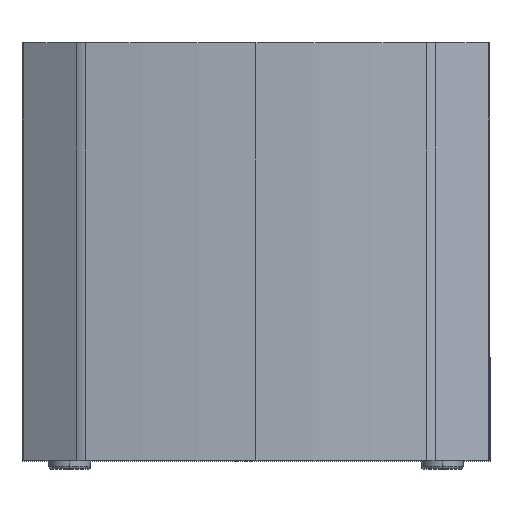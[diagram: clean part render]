
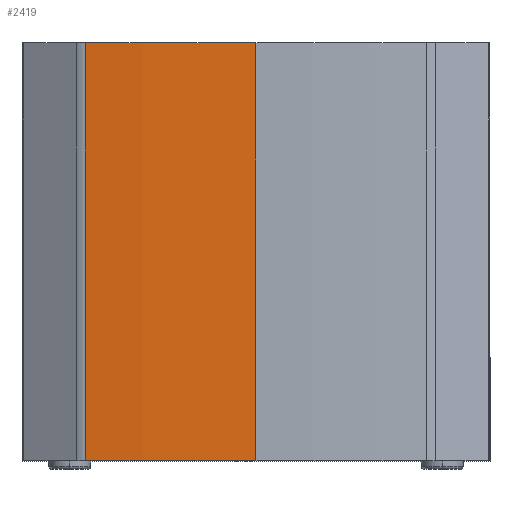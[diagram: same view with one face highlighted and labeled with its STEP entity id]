
A CAD part, top view. The second image highlights one B-rep face of the part: STEP entity #2419.
In plain terms, the highlighted cylindrical face has radius 1291.21 mm (diameter 2582.42 mm), a partial arc.
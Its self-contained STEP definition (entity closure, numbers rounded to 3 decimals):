
#1 = VECTOR ( 'NONE', #2979, 1000. ) ;
#129 = CARTESIAN_POINT ( 'NONE',  ( 0., 381.88, 251.362 ) ) ;
#325 = CIRCLE ( 'NONE', #1382, 1291.21 ) ;
#449 = DIRECTION ( 'NONE',  ( 0., 0., 1. ) ) ;
#502 = ORIENTED_EDGE ( 'NONE', *, *, #4502, .F. ) ;
#555 = CARTESIAN_POINT ( 'NONE',  ( 0., -652.661, 251.362 ) ) ;
#705 = ORIENTED_EDGE ( 'NONE', *, *, #1091, .T. ) ;
#762 = DIRECTION ( 'NONE',  ( 0., -1., 0. ) ) ;
#790 = VERTEX_POINT ( 'NONE', #2822 ) ;
#850 = CARTESIAN_POINT ( 'NONE',  ( -161.959, -15., 241.164 ) ) ;
#865 = VERTEX_POINT ( 'NONE', #1831 ) ;
#1091 = EDGE_CURVE ( 'NONE', #865, #3402, #1427, .T. ) ;
#1095 = CYLINDRICAL_SURFACE ( 'NONE', #3364, 1291.21 ) ;
#1172 = DIRECTION ( 'NONE',  ( 0., 1., 0. ) ) ;
#1280 = DIRECTION ( 'NONE',  ( 0., 0., 1. ) ) ;
#1382 = AXIS2_PLACEMENT_3D ( 'NONE', #3252, #1172, #3642 ) ;
#1419 = ORIENTED_EDGE ( 'NONE', *, *, #1604, .F. ) ;
#1427 = LINE ( 'NONE', #555, #1 ) ;
#1604 = EDGE_CURVE ( 'NONE', #790, #3402, #325, .T. ) ;
#1681 = VECTOR ( 'NONE', #2510, 1000. ) ;
#1831 = CARTESIAN_POINT ( 'NONE',  ( 0., -15., 251.362 ) ) ;
#2052 = EDGE_LOOP ( 'NONE', ( #502, #705, #1419, #3440 ) ) ;
#2419 = ADVANCED_FACE ( 'NONE', ( #3000 ), #1095, .T. ) ;
#2510 = DIRECTION ( 'NONE',  ( 0., 1., 0. ) ) ;
#2541 = CARTESIAN_POINT ( 'NONE',  ( 0., -15., -1039.848 ) ) ;
#2652 = CARTESIAN_POINT ( 'NONE',  ( 0., -652.661, -1039.848 ) ) ;
#2822 = CARTESIAN_POINT ( 'NONE',  ( -161.959, 381.88, 241.164 ) ) ;
#2979 = DIRECTION ( 'NONE',  ( 0., 1., 0. ) ) ;
#3000 = FACE_OUTER_BOUND ( 'NONE', #2052, .T. ) ;
#3197 = CARTESIAN_POINT ( 'NONE',  ( -161.959, -652.661, 241.164 ) ) ;
#3252 = CARTESIAN_POINT ( 'NONE',  ( 0., 381.88, -1039.848 ) ) ;
#3341 = AXIS2_PLACEMENT_3D ( 'NONE', #2541, #762, #449 ) ;
#3364 = AXIS2_PLACEMENT_3D ( 'NONE', #2652, #3403, #1280 ) ;
#3402 = VERTEX_POINT ( 'NONE', #129 ) ;
#3403 = DIRECTION ( 'NONE',  ( 0., 1., 0. ) ) ;
#3440 = ORIENTED_EDGE ( 'NONE', *, *, #4454, .F. ) ;
#3570 = VERTEX_POINT ( 'NONE', #850 ) ;
#3635 = CIRCLE ( 'NONE', #3341, 1291.21 ) ;
#3642 = DIRECTION ( 'NONE',  ( 0., 0., 1. ) ) ;
#4454 = EDGE_CURVE ( 'NONE', #3570, #790, #4464, .T. ) ;
#4464 = LINE ( 'NONE', #3197, #1681 ) ;
#4502 = EDGE_CURVE ( 'NONE', #865, #3570, #3635, .T. ) ;
